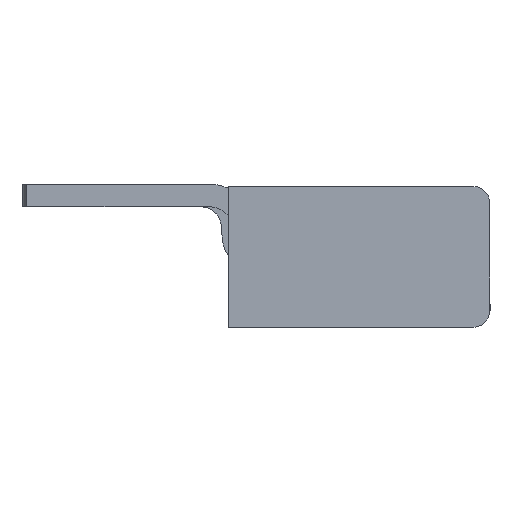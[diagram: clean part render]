
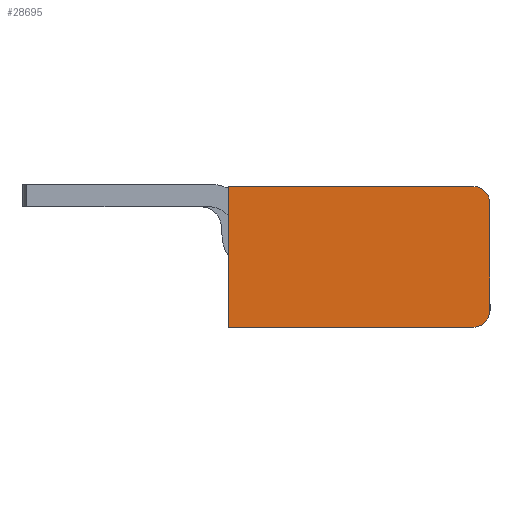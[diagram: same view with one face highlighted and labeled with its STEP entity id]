
A CAD part, left-side view. The second image highlights one B-rep face of the part: STEP entity #28695.
In plain terms, the highlighted planar face has unit normal (-1, 0, 0).
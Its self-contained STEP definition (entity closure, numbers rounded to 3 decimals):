
#673 = DIRECTION ( 'NONE',  ( 1., 0., 0. ) ) ;
#882 = FACE_OUTER_BOUND ( 'NONE', #21410, .T. ) ;
#1015 = ORIENTED_EDGE ( 'NONE', *, *, #25805, .F. ) ;
#1143 = ORIENTED_EDGE ( 'NONE', *, *, #7509, .F. ) ;
#1324 = DIRECTION ( 'NONE',  ( 0., 0., -1. ) ) ;
#1783 = ORIENTED_EDGE ( 'NONE', *, *, #13674, .F. ) ;
#1874 = DIRECTION ( 'NONE',  ( 0., -0.707, -0.707 ) ) ;
#2011 = AXIS2_PLACEMENT_3D ( 'NONE', #21515, #673, #9930 ) ;
#3187 = CARTESIAN_POINT ( 'NONE',  ( 0., 1., 7.2 ) ) ;
#3275 = ORIENTED_EDGE ( 'NONE', *, *, #9700, .F. ) ;
#3760 = CARTESIAN_POINT ( 'NONE',  ( 0., 15.2, 8.2 ) ) ;
#5444 = DIRECTION ( 'NONE',  ( 0., -0.707, 0.707 ) ) ;
#5456 = CARTESIAN_POINT ( 'NONE',  ( 0., 0., 8.2 ) ) ;
#5867 = DIRECTION ( 'NONE',  ( 0., 0., -1. ) ) ;
#5884 = CIRCLE ( 'NONE', #27254, 1. ) ;
#6088 = VERTEX_POINT ( 'NONE', #13563 ) ;
#6174 = LINE ( 'NONE', #3760, #7293 ) ;
#6363 = CIRCLE ( 'NONE', #2011, 1. ) ;
#6393 = VECTOR ( 'NONE', #25621, 1000. ) ;
#7107 = VERTEX_POINT ( 'NONE', #26995 ) ;
#7293 = VECTOR ( 'NONE', #13167, 1000. ) ;
#7304 = CARTESIAN_POINT ( 'NONE',  ( 0., 0., 1. ) ) ;
#7509 = EDGE_CURVE ( 'NONE', #7107, #10809, #14431, .T. ) ;
#7555 = VERTEX_POINT ( 'NONE', #27169 ) ;
#7785 = VERTEX_POINT ( 'NONE', #22753 ) ;
#8164 = LINE ( 'NONE', #5456, #8700 ) ;
#8292 = CARTESIAN_POINT ( 'NONE',  ( 0., 6.92, 4.102 ) ) ;
#8495 = DIRECTION ( 'NONE',  ( 0., -0.707, -0.707 ) ) ;
#8700 = VECTOR ( 'NONE', #1324, 1000. ) ;
#9014 = DIRECTION ( 'NONE',  ( 0., 0., 1. ) ) ;
#9700 = EDGE_CURVE ( 'NONE', #7555, #26328, #8164, .T. ) ;
#9930 = DIRECTION ( 'NONE',  ( 0., -0.707, 0.707 ) ) ;
#9957 = EDGE_CURVE ( 'NONE', #12865, #7107, #6174, .T. ) ;
#10809 = VERTEX_POINT ( 'NONE', #27982 ) ;
#11511 = AXIS2_PLACEMENT_3D ( 'NONE', #3187, #15010, #5444 ) ;
#11535 = AXIS2_PLACEMENT_3D ( 'NONE', #20674, #27680, #8495 ) ;
#11766 = CARTESIAN_POINT ( 'NONE',  ( 0., 0., 0. ) ) ;
#12433 = EDGE_CURVE ( 'NONE', #10809, #7555, #6363, .T. ) ;
#12865 = VERTEX_POINT ( 'NONE', #15162 ) ;
#13006 = PLANE ( 'NONE',  #24524 ) ;
#13167 = DIRECTION ( 'NONE',  ( 0., -1., 0. ) ) ;
#13563 = CARTESIAN_POINT ( 'NONE',  ( 0., 15.2, 0. ) ) ;
#13674 = EDGE_CURVE ( 'NONE', #26328, #29539, #5884, .T. ) ;
#13880 = DIRECTION ( 'NONE',  ( 1., 0., 0. ) ) ;
#14216 = ORIENTED_EDGE ( 'NONE', *, *, #12433, .F. ) ;
#14431 = CIRCLE ( 'NONE', #11511, 1. ) ;
#15010 = DIRECTION ( 'NONE',  ( 1., 0., 0. ) ) ;
#15162 = CARTESIAN_POINT ( 'NONE',  ( 0., 15.2, 8.2 ) ) ;
#16046 = EDGE_CURVE ( 'NONE', #7785, #6088, #20901, .T. ) ;
#17059 = ORIENTED_EDGE ( 'NONE', *, *, #22372, .F. ) ;
#17208 = CARTESIAN_POINT ( 'NONE',  ( 0., 0.293, 0.293 ) ) ;
#17440 = DIRECTION ( 'NONE',  ( 1., 0., 0. ) ) ;
#17623 = ORIENTED_EDGE ( 'NONE', *, *, #9957, .F. ) ;
#20589 = LINE ( 'NONE', #29872, #22414 ) ;
#20674 = CARTESIAN_POINT ( 'NONE',  ( 0., 1., 1. ) ) ;
#20774 = CIRCLE ( 'NONE', #11535, 1. ) ;
#20901 = LINE ( 'NONE', #11766, #6393 ) ;
#21410 = EDGE_LOOP ( 'NONE', ( #1015, #23470, #17059, #1783, #3275, #14216, #1143, #17623 ) ) ;
#21515 = CARTESIAN_POINT ( 'NONE',  ( 0., 1., 7.2 ) ) ;
#22372 = EDGE_CURVE ( 'NONE', #29539, #7785, #20774, .T. ) ;
#22414 = VECTOR ( 'NONE', #9014, 1000. ) ;
#22753 = CARTESIAN_POINT ( 'NONE',  ( 0., 1., 0. ) ) ;
#23470 = ORIENTED_EDGE ( 'NONE', *, *, #16046, .F. ) ;
#24524 = AXIS2_PLACEMENT_3D ( 'NONE', #8292, #17440, #5867 ) ;
#24995 = CARTESIAN_POINT ( 'NONE',  ( 0., 1., 1. ) ) ;
#25621 = DIRECTION ( 'NONE',  ( 0., 1., 0. ) ) ;
#25805 = EDGE_CURVE ( 'NONE', #6088, #12865, #20589, .T. ) ;
#26328 = VERTEX_POINT ( 'NONE', #7304 ) ;
#26995 = CARTESIAN_POINT ( 'NONE',  ( 0., 1., 8.2 ) ) ;
#27169 = CARTESIAN_POINT ( 'NONE',  ( 0., 0., 7.2 ) ) ;
#27254 = AXIS2_PLACEMENT_3D ( 'NONE', #24995, #13880, #1874 ) ;
#27680 = DIRECTION ( 'NONE',  ( 1., 0., 0. ) ) ;
#27982 = CARTESIAN_POINT ( 'NONE',  ( 0., 0.293, 7.907 ) ) ;
#28695 = ADVANCED_FACE ( 'NONE', ( #882 ), #13006, .F. ) ;
#29539 = VERTEX_POINT ( 'NONE', #17208 ) ;
#29872 = CARTESIAN_POINT ( 'NONE',  ( 0., 15.2, 0. ) ) ;
